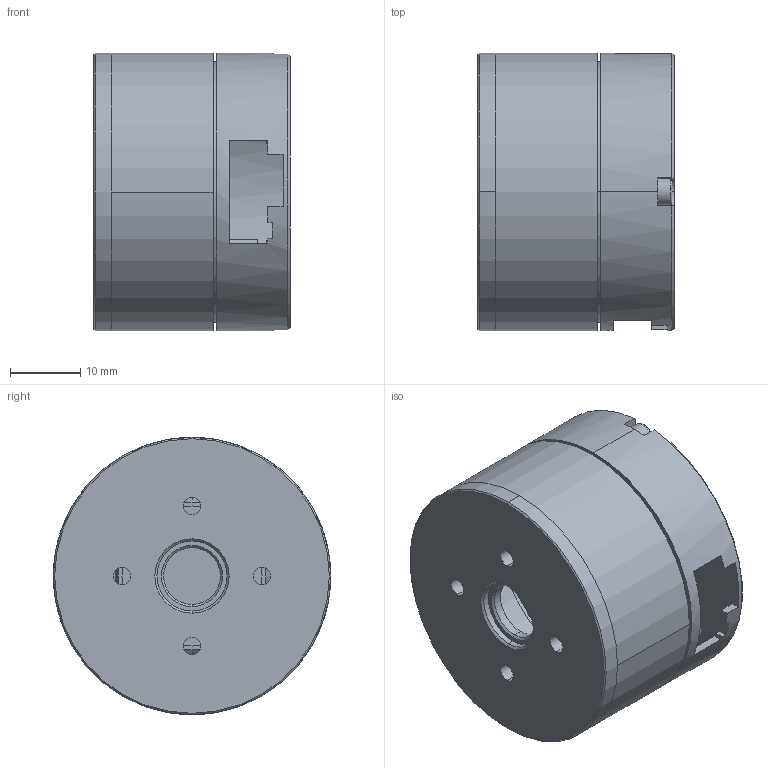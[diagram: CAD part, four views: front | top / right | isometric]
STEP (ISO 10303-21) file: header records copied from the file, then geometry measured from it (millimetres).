
FILE_DESCRIPTION (( 'STEP AP214' ), '1' );
FILE_NAME ('RMD-4010.step', '2024-01-23T08:24:06', ( '' ), ( '' ), 'SwSTEP 2.0', 'SolidWorks 2020', '' );
FILE_SCHEMA (( 'AUTOMOTIVE_DESIGN' ));
Length unit declared in the file: millimetre
Products named in the file (1): RMD-4010
Bounding box: 28 x 39.6 x 39.6 mm (x, y, z)
Volume: 9259.6 mm3; surface area: 14921.7 mm2
Topology: 7 solids, 9 shells, 293 faces, 733 edges, 467 vertices
Faces by surface type: cylinder 133, plane 113, cone 38, bspline 6, torus 3
Entity records: 9002 total; most frequent: CARTESIAN_POINT 1804, DIRECTION 1568, ORIENTED_EDGE 1426, EDGE_CURVE 713, AXIS2_PLACEMENT_3D 631, VERTEX_POINT 467, EDGE_LOOP 348, CIRCLE 343
